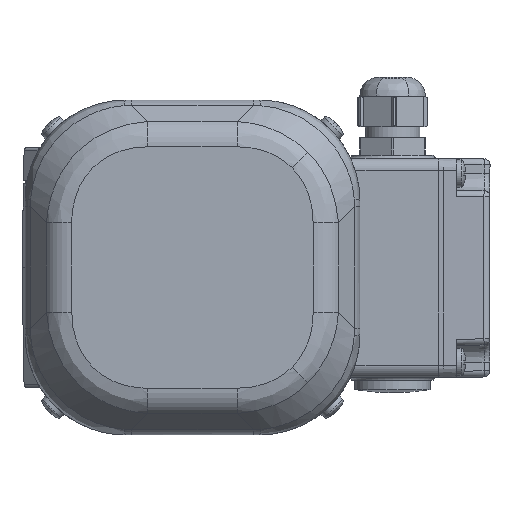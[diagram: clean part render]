
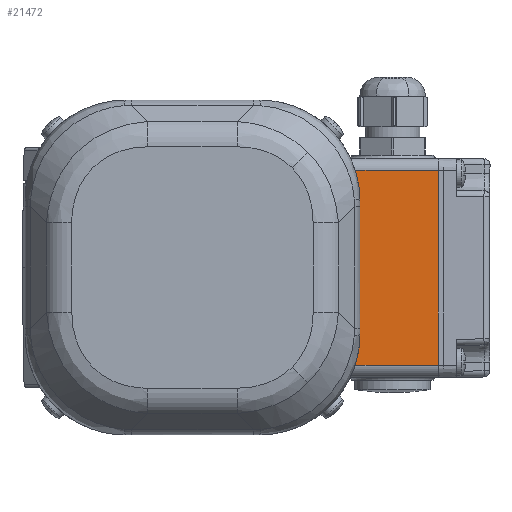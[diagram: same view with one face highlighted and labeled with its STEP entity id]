
A CAD part, left-side view. The second image highlights one B-rep face of the part: STEP entity #21472.
In plain terms, the highlighted planar face has unit normal (-1, 0, 0).
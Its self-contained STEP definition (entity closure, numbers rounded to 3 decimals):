
#657 = EDGE_CURVE ( 'NONE', #2871, #30567, #33854, .T. ) ;
#762 = DIRECTION ( 'NONE',  ( 0., 1., 0. ) ) ;
#763 = EDGE_CURVE ( 'NONE', #51968, #32668, #41939, .T. ) ;
#1297 = CARTESIAN_POINT ( 'NONE',  ( -34., 0., 0. ) ) ;
#2871 = VERTEX_POINT ( 'NONE', #24999 ) ;
#5608 = DIRECTION ( 'NONE',  ( 0., 1., 0. ) ) ;
#5661 = VECTOR ( 'NONE', #762, 1000. ) ;
#7253 = ORIENTED_EDGE ( 'NONE', *, *, #44002, .F. ) ;
#7738 = EDGE_LOOP ( 'NONE', ( #47037, #26270, #41814, #7253 ) ) ;
#8273 = CARTESIAN_POINT ( 'NONE',  ( -34., -32., 0. ) ) ;
#9245 = CARTESIAN_POINT ( 'NONE',  ( -34., 32., -30. ) ) ;
#9360 = CARTESIAN_POINT ( 'NONE',  ( -34., 0., -30. ) ) ;
#10465 = LINE ( 'NONE', #27158, #11471 ) ;
#11471 = VECTOR ( 'NONE', #44371, 1000. ) ;
#15313 = EDGE_CURVE ( 'NONE', #51968, #2871, #10465, .T. ) ;
#15966 = VECTOR ( 'NONE', #5608, 1000. ) ;
#21472 = ADVANCED_FACE ( 'NONE', ( #37327 ), #41645, .F. ) ;
#24447 = DIRECTION ( 'NONE',  ( 1., 0., 0. ) ) ;
#24999 = CARTESIAN_POINT ( 'NONE',  ( -34., -32., 0. ) ) ;
#26270 = ORIENTED_EDGE ( 'NONE', *, *, #15313, .T. ) ;
#27158 = CARTESIAN_POINT ( 'NONE',  ( -34., -32., -15. ) ) ;
#28776 = AXIS2_PLACEMENT_3D ( 'NONE', #8273, #24447, #32776 ) ;
#30567 = VERTEX_POINT ( 'NONE', #46235 ) ;
#32174 = LINE ( 'NONE', #47526, #39132 ) ;
#32668 = VERTEX_POINT ( 'NONE', #9245 ) ;
#32776 = DIRECTION ( 'NONE',  ( 0., 0., -1. ) ) ;
#33854 = LINE ( 'NONE', #1297, #5661 ) ;
#37327 = FACE_OUTER_BOUND ( 'NONE', #7738, .T. ) ;
#39132 = VECTOR ( 'NONE', #43482, 1000. ) ;
#41645 = PLANE ( 'NONE',  #28776 ) ;
#41814 = ORIENTED_EDGE ( 'NONE', *, *, #657, .T. ) ;
#41939 = LINE ( 'NONE', #9360, #15966 ) ;
#42101 = CARTESIAN_POINT ( 'NONE',  ( -34., -32., -30. ) ) ;
#43482 = DIRECTION ( 'NONE',  ( 0., 0., 1. ) ) ;
#44002 = EDGE_CURVE ( 'NONE', #32668, #30567, #32174, .T. ) ;
#44371 = DIRECTION ( 'NONE',  ( 0., 0., 1. ) ) ;
#46235 = CARTESIAN_POINT ( 'NONE',  ( -34., 32., 0. ) ) ;
#47037 = ORIENTED_EDGE ( 'NONE', *, *, #763, .F. ) ;
#47526 = CARTESIAN_POINT ( 'NONE',  ( -34., 32., -15. ) ) ;
#51968 = VERTEX_POINT ( 'NONE', #42101 ) ;
